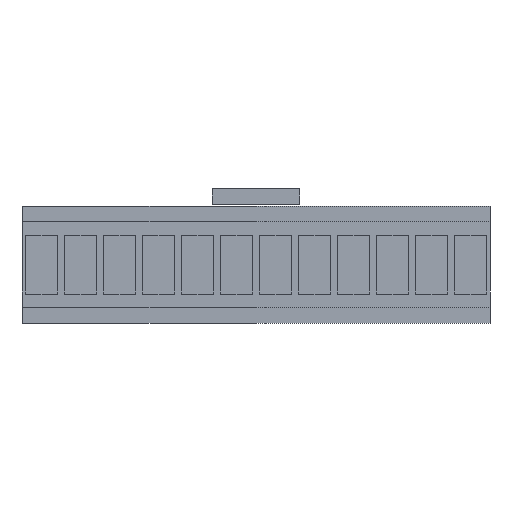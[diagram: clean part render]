
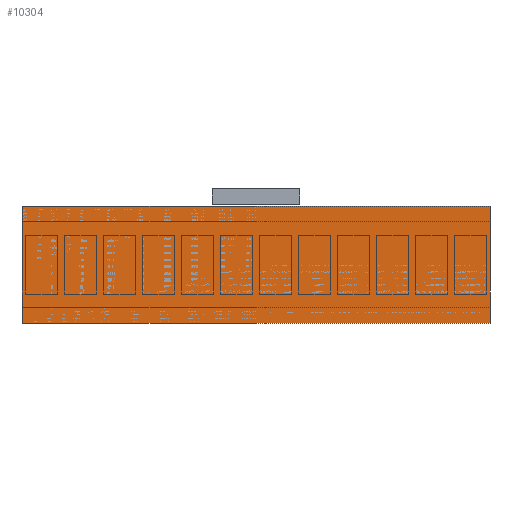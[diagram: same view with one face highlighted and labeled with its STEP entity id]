
A CAD part, front view. The second image highlights one B-rep face of the part: STEP entity #10304.
In plain terms, the highlighted planar face has unit normal (0, -1, 0).
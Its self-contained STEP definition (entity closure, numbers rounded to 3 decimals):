
#10228 = EDGE_CURVE('',#10229,#10231,#10233,.T.);
#10229 = VERTEX_POINT('',#10230);
#10230 = CARTESIAN_POINT('',(-120.,-336.,-30.));
#10231 = VERTEX_POINT('',#10232);
#10232 = CARTESIAN_POINT('',(-120.,-336.,30.));
#10233 = LINE('',#10234,#10235);
#10234 = CARTESIAN_POINT('',(-120.,-336.,-30.));
#10235 = VECTOR('',#10236,1.);
#10236 = DIRECTION('',(0.,0.,1.));
#10268 = EDGE_CURVE('',#10269,#10271,#10273,.T.);
#10269 = VERTEX_POINT('',#10270);
#10270 = CARTESIAN_POINT('',(120.,-336.,-30.));
#10271 = VERTEX_POINT('',#10272);
#10272 = CARTESIAN_POINT('',(120.,-336.,30.));
#10273 = LINE('',#10274,#10275);
#10274 = CARTESIAN_POINT('',(120.,-336.,-30.));
#10275 = VECTOR('',#10276,1.);
#10276 = DIRECTION('',(0.,0.,1.));
#10304 = ADVANCED_FACE('',(#10305),#10321,.F.);
#10305 = FACE_BOUND('',#10306,.F.);
#10306 = EDGE_LOOP('',(#10307,#10313,#10314,#10320));
#10307 = ORIENTED_EDGE('',*,*,#10308,.F.);
#10308 = EDGE_CURVE('',#10229,#10269,#10309,.T.);
#10309 = LINE('',#10310,#10311);
#10310 = CARTESIAN_POINT('',(-120.,-336.,-30.));
#10311 = VECTOR('',#10312,1.);
#10312 = DIRECTION('',(1.,0.,0.));
#10313 = ORIENTED_EDGE('',*,*,#10228,.T.);
#10314 = ORIENTED_EDGE('',*,*,#10315,.T.);
#10315 = EDGE_CURVE('',#10231,#10271,#10316,.T.);
#10316 = LINE('',#10317,#10318);
#10317 = CARTESIAN_POINT('',(-120.,-336.,30.));
#10318 = VECTOR('',#10319,1.);
#10319 = DIRECTION('',(1.,0.,0.));
#10320 = ORIENTED_EDGE('',*,*,#10268,.F.);
#10321 = PLANE('',#10322);
#10322 = AXIS2_PLACEMENT_3D('',#10323,#10324,#10325);
#10323 = CARTESIAN_POINT('',(-120.,-336.,-30.));
#10324 = DIRECTION('',(0.,1.,0.));
#10325 = DIRECTION('',(0.,0.,1.));
